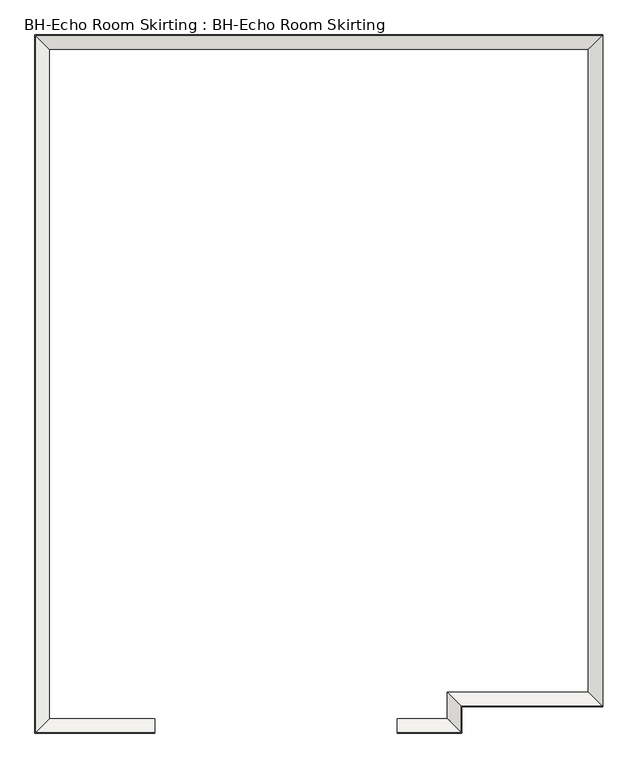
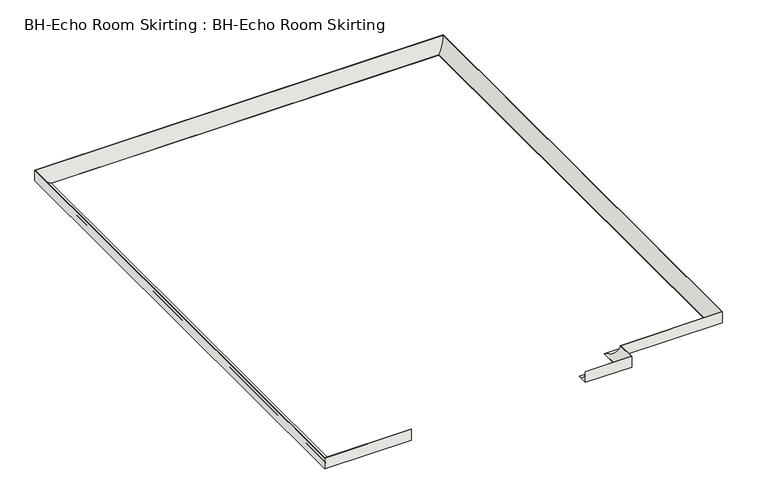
"""IFC4 building model written with IfcOpenShell, lengths in millimetres: slab geometry, BH-Echo Room Skirting : BH-Echo Room Skirting."""

from ifc_helpers import new_model, si_unit, frame, origin, place, context, project, spatial, polyline, circle_curve, ellipse_curve, source, transform, mapped, element, save
from ifc_brep_helpers import plane_surface, revolved_surface, advanced_brep


def bh_echo_room_skirting_bh_echo_room_skirting_22a46f71(model_context):
    return source(origin(), model_context, "Body", "AdvancedBrep", [
        advanced_brep(
        [(32213.3803981, 12757.6534619, 2.0), (32213.3803981, 12757.6534619, 0.0), (32213.3803981, 12665.2839979, 0.0), (32213.3803981, 12665.2839979, 100.0), (32213.3803981, 12667.2839979, 100.0), (30668.3803981, 12757.6534619, 2.0), (30668.3803981, 12667.2839979, 100.0), (30668.3803981, 12665.2839979, 100.0), (30668.3803981, 12665.2839979, 0.0), (30668.3803981, 12757.6534619, 0.0), (32531.0109341, 12757.6534619, 2.0), (32531.0109341, 12757.6534619, 0.0), (32531.0109341, 12925.6534619, 0.0), (33431.0109341, 12925.6534619, 0.0), (33431.0109341, 17022.9145619, 0.0), (29995.7498622, 17022.9145619, 0.0), (29995.7498622, 12757.6534619, 0.0), (29903.3803981, 12665.2839979, 0.0), (29903.3803981, 17115.284026, 0.0), (33523.3803981, 17115.284026, 0.0), (33523.3803981, 12833.2839979, 0.0), (32623.3803981, 12833.2839979, 0.0), (32623.3803981, 12665.2839979, 0.0), (32623.3803981, 12665.2839979, 100.0), (32623.3803981, 12833.2839979, 100.0), (33523.3803981, 12833.2839979, 100.0), (33523.3803981, 17115.284026, 100.0), (29903.3803981, 17115.284026, 100.0), (29903.3803981, 12665.2839979, 100.0), (29905.3803981, 12667.2839979, 100.0), (29905.3803981, 17113.284026, 100.0), (33521.3803981, 17113.284026, 100.0), (33521.3803981, 12835.2839979, 100.0), (32621.3803981, 12835.2839979, 100.0), (32621.3803981, 12667.2839979, 100.0), (32531.0109341, 12925.6534619, 2.0), (33431.0109341, 12925.6534619, 2.0), (33431.0109341, 17022.9145619, 2.0), (29995.7498622, 17022.9145619, 2.0), (29995.7498622, 12757.6534619, 2.0)],
        [
            (0, 1),
            (1, 2),
            (2, 3),
            (3, 4),
            (4, 0, circle_curve(frame((32213.3803981, 12759.6022289, 94.4635617), z_axis=(1.0, 0.0, 0.0), x_axis=(0.0, 1.0, 0.0)), 92.4840956)),
            (5, 6, circle_curve(frame((30668.3803981, 12759.6022289, 94.4635617), z_axis=(-1.0, 0.0, 0.0), x_axis=(0.0, 1.0, 0.0)), 92.4840956)),
            (6, 7),
            (7, 8),
            (8, 9),
            (9, 5),
            (0, 10),
            (10, 11),
            (11, 1),
            (11, 12),
            (12, 13),
            (13, 14),
            (14, 15),
            (15, 16),
            (16, 9),
            (8, 17),
            (17, 18),
            (18, 19),
            (19, 20),
            (20, 21),
            (21, 22),
            (22, 2),
            (22, 23),
            (23, 3),
            (23, 24),
            (24, 25),
            (25, 26),
            (26, 27),
            (27, 28),
            (28, 7),
            (6, 29),
            (29, 30),
            (30, 31),
            (31, 32),
            (32, 33),
            (33, 34),
            (34, 4),
            (34, 10, ellipse_curve(frame((32529.0621671, 12759.6022289, 94.4635617), z_axis=(0.7071067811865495, 0.7071067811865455, 0.0), x_axis=(0.7071067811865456, -0.7071067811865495, 0.0)), 130.7922623, 92.4840956)),
            (10, 35),
            (35, 12),
            (21, 24),
            (33, 35, ellipse_curve(frame((32529.0621671, 12927.6022289, 94.4635617), z_axis=(0.7071067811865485, 0.7071067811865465, 0.0), x_axis=(-0.7071067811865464, 0.7071067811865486, 0.0)), 130.7922623, 92.4840956)),
            (35, 36),
            (36, 13),
            (20, 25),
            (32, 36, ellipse_curve(frame((33429.0621671, 12927.6022289, 94.4635617), z_axis=(0.7071067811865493, 0.7071067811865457, 0.0), x_axis=(0.7071067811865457, -0.7071067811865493, 0.0)), 130.7922623, 92.4840956)),
            (36, 37),
            (37, 14),
            (19, 26),
            (31, 37, ellipse_curve(frame((33429.0621671, 17020.9657949, 94.4635617), z_axis=(-0.7071067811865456, 0.7071067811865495, 0.0), x_axis=(0.7071067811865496, 0.7071067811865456, 0.0)), 130.7922623, 92.4840956)),
            (37, 38),
            (38, 15),
            (18, 27),
            (30, 38, ellipse_curve(frame((29997.6986292, 17020.9657949, 94.4635617), z_axis=(-0.7071067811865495, -0.7071067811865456, 0.0), x_axis=(-0.7071067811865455, 0.7071067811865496, 0.0)), 130.7922623, 92.4840956)),
            (38, 39),
            (39, 16),
            (17, 28),
            (29, 39, ellipse_curve(frame((29997.6986292, 12759.6022289, 94.4635617), z_axis=(0.7071067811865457, -0.7071067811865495, 0.0), x_axis=(-0.7071067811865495, -0.7071067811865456, 0.0)), 130.7922623, 92.4840956)),
            (39, 5),
        ],
        [
            plane_surface(frame((32213.3803981, 12665.2839979, 0.0), z_axis=(-1.0, 0.0, 0.0), x_axis=(0.0, 0.0, 1.0))),
            plane_surface(frame((30668.3803981, 12665.2839979, 0.0), z_axis=(1.0, 0.0, 0.0), x_axis=(0.0, 0.0, 1.0))),
            plane_surface(frame((32213.3803981, 12757.6534619, 2.0), z_axis=(0.0, 1.0, 0.0), x_axis=(1.0, 0.0, 0.0))),
            plane_surface(frame((32213.3803981, 12757.6534619, 0.0), z_axis=(0.0, 0.0, -1.0), x_axis=(1.0, 0.0, 0.0))),
            plane_surface(frame((32213.3803981, 12665.2839979, 0.0), z_axis=(0.0, -1.0, 0.0), x_axis=(1.0, 0.0, 0.0))),
            plane_surface(frame((32213.3803981, 12665.2839979, 100.0), z_axis=(0.0, 0.0, 1.0), x_axis=(1.0, 0.0, 0.0))),
            revolved_surface(polyline([(32621.54626269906, 12852.0863245, 94.4635617), (32213.3803981, 12852.0863245, 94.4635617)]), (32213.3803981, 12759.6022289, 94.4635617), (1.0, 0.0, 0.0)),
            plane_surface(frame((32531.0109341, 12757.6534619, 2.0), z_axis=(-1.0, 0.0, 0.0), x_axis=(0.0, 1.0, 0.0))),
            plane_surface(frame((32623.3803981, 12665.2839979, 0.0), z_axis=(1.0, 0.0, 0.0), x_axis=(0.0, 1.0, 0.0))),
            revolved_surface(polyline([(32436.5780715, 13020.08632449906, 94.4635617), (32436.5780715, 12667.118133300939, 94.4635617)]), (32529.0621671, 12665.2839979, 94.4635617), (0.0, 1.0, 0.0)),
            plane_surface(frame((32531.0109341, 12925.6534619, 2.0), z_axis=(0.0, 1.0, 0.0), x_axis=(1.0, 0.0, 0.0))),
            plane_surface(frame((32623.3803981, 12833.2839979, 0.0), z_axis=(0.0, -1.0, 0.0), x_axis=(1.0, 0.0, 0.0))),
            revolved_surface(polyline([(33521.546262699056, 13020.0863245, 94.4635617), (32436.578071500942, 13020.0863245, 94.4635617)]), (32623.3803981, 12927.6022289, 94.4635617), (1.0, 0.0, 0.0)),
            plane_surface(frame((33431.0109341, 12925.6534619, 2.0), z_axis=(-1.0, 0.0, 0.0), x_axis=(0.0, 1.0, 0.0))),
            plane_surface(frame((33523.3803981, 12833.2839979, 0.0), z_axis=(1.0, 0.0, 0.0), x_axis=(0.0, 1.0, 0.0))),
            revolved_surface(polyline([(33336.5780715, 17113.449890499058, 94.4635617), (33336.5780715, 12835.118133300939, 94.4635617)]), (33429.0621671, 12833.2839979, 94.4635617), (0.0, 1.0, 0.0)),
            plane_surface(frame((33431.0109341, 17022.9145619, 2.0), z_axis=(0.0, -1.0, 0.0), x_axis=(-1.0, 0.0, 0.0))),
            plane_surface(frame((33523.3803981, 17115.284026, 0.0), z_axis=(0.0, 1.0, 0.0), x_axis=(-1.0, 0.0, 0.0))),
            revolved_surface(polyline([(29905.21453360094, 16928.4816993, 94.4635617), (33521.546262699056, 16928.4816993, 94.4635617)]), (33523.3803981, 17020.9657949, 94.4635617), (-1.0, 0.0, 0.0)),
            plane_surface(frame((29995.7498622, 17022.9145619, 2.0), z_axis=(1.0, 0.0, 0.0), x_axis=(0.0, -1.0, 0.0))),
            plane_surface(frame((29903.3803981, 17115.284026, 0.0), z_axis=(-1.0, 0.0, 0.0), x_axis=(0.0, -1.0, 0.0))),
            revolved_surface(polyline([(30090.1827248, 12667.11813330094, 94.4635617), (30090.1827248, 17113.449890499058, 94.4635617)]), (29997.6986292, 17115.284026, 94.4635617), (0.0, -1.0, 0.0)),
            plane_surface(frame((29995.7498622, 12757.6534619, 2.0), z_axis=(0.0, 1.0, 0.0), x_axis=(1.0, 0.0, 0.0))),
            plane_surface(frame((29903.3803981, 12665.2839979, 0.0), z_axis=(0.0, -1.0, 0.0), x_axis=(1.0, 0.0, 0.0))),
            revolved_surface(polyline([(30668.3803981, 12852.0863245, 94.4635617), (29905.21453360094, 12852.0863245, 94.4635617)]), (29903.3803981, 12759.6022289, 94.4635617), (1.0, 0.0, 0.0)),
        ],
        [
            (0, [[1, 2, 3, 4, 5]]),
            (1, [[6, 7, 8, 9, 10]]),
            (2, [[-1, 11, 12, 13]]),
            (3, [[-2, -13, 14, 15, 16, 17, 18, 19, -9, 20, 21, 22, 23, 24, 25, 26]]),
            (4, [[-3, -26, 27, 28]]),
            (5, [[-4, -28, 29, 30, 31, 32, 33, 34, -7, 35, 36, 37, 38, 39, 40, 41]]),
            (6, [[-5, -41, 42, -11]]),
            (7, [[-12, 43, 44, -14]]),
            (8, [[-27, -25, 45, -29]]),
            (9, [[-42, -40, 46, -43]]),
            (10, [[-44, 47, 48, -15]]),
            (11, [[-45, -24, 49, -30]]),
            (12, [[-46, -39, 50, -47]]),
            (13, [[-48, 51, 52, -16]]),
            (14, [[-49, -23, 53, -31]]),
            (15, [[-50, -38, 54, -51]]),
            (16, [[-52, 55, 56, -17]]),
            (17, [[-53, -22, 57, -32]]),
            (18, [[-54, -37, 58, -55]]),
            (19, [[-56, 59, 60, -18]]),
            (20, [[-57, -21, 61, -33]]),
            (21, [[-58, -36, 62, -59]]),
            (22, [[-60, 63, -10, -19]]),
            (23, [[-61, -20, -8, -34]]),
            (24, [[-62, -35, -6, -63]]),
        ],
    ),
    ])


if __name__ == "__main__":
    model = new_model("IFC4")
    model_context = context("Model", 3, world=origin())
    ifc_project = project(units=[si_unit("LENGTHUNIT", "METRE", prefix="MILLI")], contexts=[model_context])
    site = spatial("IfcSite", under=ifc_project)
    building = spatial("IfcBuilding", under=site)
    placement = place(None, origin())
    bh_echo_room_skirting_bh_echo_room_skirting_shape = bh_echo_room_skirting_bh_echo_room_skirting_22a46f71(model_context)
    element("IfcSlab", 1, ObjectType="BH-Echo Room Skirting : BH-Echo Room Skirting", at=placement, inside=building, context=model_context, shape_type="MappedRepresentation", body=[
        mapped(bh_echo_room_skirting_bh_echo_room_skirting_shape, transform((0.0, 0.0, 0.0), x_axis=(1.0, 0.0, 0.0), y_axis=(0.0, 1.0, 0.0), z_axis=(0.0, 0.0, 1.0))),
    ])
    save(model, "model.ifc")
